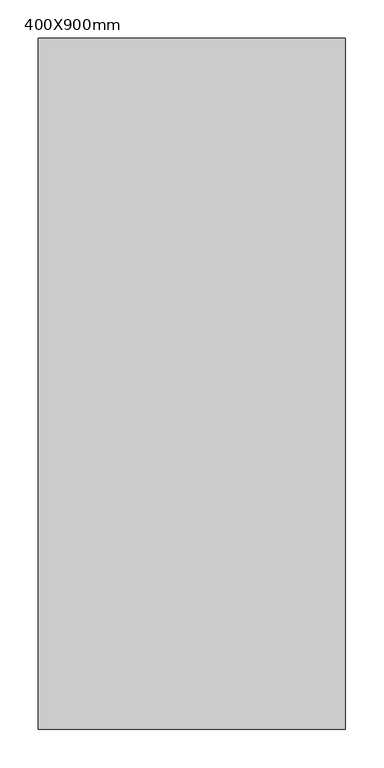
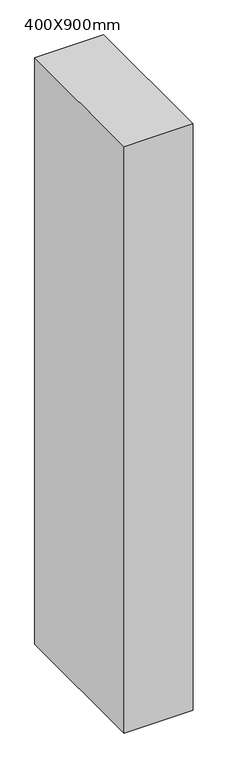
"""IFC4 building model written with IfcOpenShell, lengths in millimetres: column geometry, 混凝土 - 矩形 - 柱 : 400X900mm."""

from ifc_helpers import new_model, si_unit, frame, origin, place, context, project, spatial, polyline, outline, extrude, source, transform, mapped, element, save


def column_400x900mm_5f92045b(model_context):
    return source(origin(), model_context, "Body", "SweptSolid", [
        extrude(outline(polyline([(200.0, 450.0), (200.0, -450.0), (-200.0, -450.0), (-200.0, 450.0), (200.0, 450.0)])), frame((0.0, 0.0, 3600.0), z_axis=(0.0, 0.0, 1.0), x_axis=(1.0, 0.0, 0.0)), (0.0, 0.0, 1.0), 3600.0),
    ])


if __name__ == "__main__":
    model = new_model("IFC4")
    model_context = context("Model", 3, world=origin())
    ifc_project = project(units=[si_unit("LENGTHUNIT", "METRE", prefix="MILLI")], contexts=[model_context])
    site = spatial("IfcSite", under=ifc_project)
    building = spatial("IfcBuilding", under=site)
    placement = place(None, origin())
    column_400x900mm_shape = column_400x900mm_5f92045b(model_context)
    element("IfcColumn", 1, ObjectType="混凝土 - 矩形 - 柱 : 400X900mm", at=placement, inside=building, context=model_context, shape_type="MappedRepresentation", body=[
        mapped(column_400x900mm_shape, transform((0.0, 0.0, 0.0), x_axis=(1.0, 0.0, 0.0), y_axis=(0.0, 1.0, 0.0), z_axis=(0.0, 0.0, 1.0))),
    ])
    save(model, "model.ifc")
